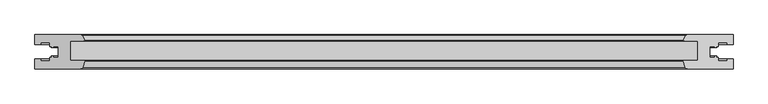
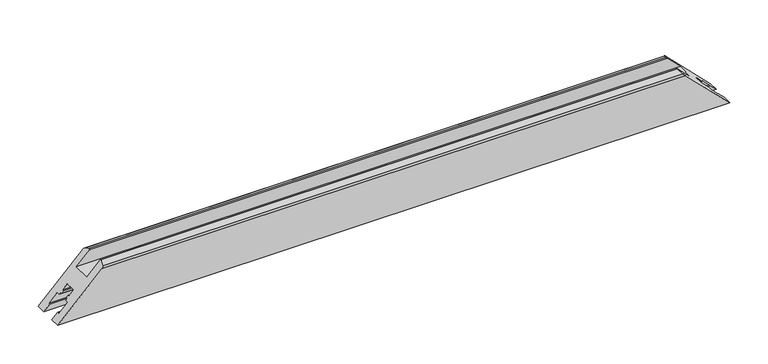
"""IFC4 building model written with IfcOpenShell, lengths in millimetres: proxy geometry, Weiku - Montante - Folha de correr 02.2.01.020 : Weiku - Montante - Folha de correr 02.2.01.020."""

from ifc_helpers import new_model, si_unit, frame, origin, place, context, project, spatial, ellipse_curve, source, transform, mapped, element, save
from ifc_brep_helpers import plane_surface, cylinder_surface, advanced_brep


def generic_models_0e127dd4(model_context):
    return source(origin(), model_context, "Body", "AdvancedBrep", [
        advanced_brep(
        [(505.75, -50.0, 0.0), (439.2504942, -50.0, 66.4995058), (-439.2504942, -50.0, 66.4995058), (-505.75, -50.0, 0.0), (-505.75, -35.5, 0.0), (505.75, -35.5, 0.0), (-505.75, 0.0, 0.0), (-438.2379875, 0.0, 67.5120125), (438.2379875, 0.0, 67.5120125), (505.75, 0.0, 0.0), (-436.3527168, -47.7764571, 69.3972832), (-433.7677981, -38.1294095, 71.9822019), (-434.2507611, -37.5, 71.4992389), (-454.7507611, -37.5, 50.9992389), (-454.7507611, -9.5, 50.9992389), (-434.9641895, -9.5, 70.7858105), (-433.8020406, -7.617411, 71.9479594), (-437.3440268, -0.5518546, 68.4059732), (-505.75, -14.5, 0.0), (-497.15, -14.5, 8.6), (-497.15, -11.7, 8.6), (-483.95, -11.7, 21.8), (-483.95, -16.9, 21.8), (-481.6024152, -16.9, 24.1475848), (-481.7773926, -18.9, 23.9726074), (-478.95, -18.9, 26.8), (-478.95, -16.9, 26.8), (-471.75, -16.9, 34.0), (-471.75, -33.1, 34.0), (-478.95, -33.1, 26.8), (-478.95, -31.1, 26.8), (-481.7773926, -31.1, 23.9726074), (-481.6024152, -33.1, 24.1475848), (-483.95, -33.1, 21.8), (-483.95, -38.3, 21.8), (-497.15, -38.3, 8.6), (-497.15, -35.5, 8.6), (497.15, -35.5, 8.6), (497.15, -38.3, 8.6), (483.95, -38.3, 21.8), (483.95, -33.1, 21.8), (481.6024152, -33.1, 24.1475848), (481.7773926, -31.1, 23.9726074), (478.95, -31.1, 26.8), (478.95, -33.1, 26.8), (471.75, -33.1, 34.0), (471.75, -16.9, 34.0), (478.95, -16.9, 26.8), (478.95, -18.9, 26.8), (481.7773926, -18.9, 23.9726074), (481.6024152, -16.9, 24.1475848), (483.95, -16.9, 21.8), (483.95, -11.7, 21.8), (497.15, -11.7, 8.6), (497.15, -14.5, 8.6), (505.75, -14.5, 0.0), (437.3440268, -0.5518546, 68.4059732), (433.8020406, -7.617411, 71.9479594), (434.9641895, -9.5, 70.7858105), (454.7507611, -9.5, 50.9992389), (454.7507611, -37.5, 50.9992389), (434.2507611, -37.5, 71.4992389), (433.7677981, -38.1294095, 71.9822019), (436.3527168, -47.7764571, 69.3972832)],
        [
            (0, 1),
            (1, 2),
            (2, 3),
            (3, 0),
            (3, 4),
            (4, 5),
            (5, 0),
            (6, 7),
            (7, 8),
            (8, 9),
            (9, 6),
            (2, 10, ellipse_curve(frame((-439.2504942, -47.0, 66.4995058), z_axis=(-0.7071067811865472, 0.0, 0.7071067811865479), x_axis=(-0.7071067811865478, 0.0, -0.7071067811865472)), 4.2426407, 3.0)),
            (10, 11),
            (11, 12, ellipse_curve(frame((-434.2507611, -38.0, 71.4992389), z_axis=(-0.7071067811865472, 0.0, 0.7071067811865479), x_axis=(-0.7071067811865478, 0.0, -0.7071067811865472)), 0.7071068, 0.5)),
            (12, 13),
            (13, 14),
            (14, 15),
            (15, 16, ellipse_curve(frame((-434.9641895, -8.2, 70.7858105), z_axis=(-0.7071067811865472, 0.0, 0.7071067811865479), x_axis=(-0.7071067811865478, 0.0, -0.7071067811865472)), 1.8384776, 1.3)),
            (16, 17),
            (17, 7, ellipse_curve(frame((-438.2379875, -1.0, 67.5120125), z_axis=(-0.7071067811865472, 0.0, 0.7071067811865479), x_axis=(-0.7071067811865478, 0.0, -0.7071067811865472)), 1.4142136, 1.0)),
            (6, 18),
            (18, 19),
            (19, 20),
            (20, 21),
            (21, 22),
            (22, 23),
            (23, 24),
            (24, 25),
            (25, 26),
            (26, 27),
            (27, 28),
            (28, 29),
            (29, 30),
            (30, 31),
            (31, 32),
            (32, 33),
            (33, 34),
            (34, 35),
            (35, 36),
            (36, 4),
            (5, 37),
            (37, 38),
            (38, 39),
            (39, 40),
            (40, 41),
            (41, 42),
            (42, 43),
            (43, 44),
            (44, 45),
            (45, 46),
            (46, 47),
            (47, 48),
            (48, 49),
            (49, 50),
            (50, 51),
            (51, 52),
            (52, 53),
            (53, 54),
            (54, 55),
            (55, 9),
            (8, 56, ellipse_curve(frame((438.2379875, -1.0, 67.5120125), z_axis=(0.7071067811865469, 0.0, 0.7071067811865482), x_axis=(-0.707106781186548, 0.0, 0.7071067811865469)), 1.4142136, 1.0)),
            (56, 57),
            (57, 58, ellipse_curve(frame((434.9641895, -8.2, 70.7858105), z_axis=(0.7071067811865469, 0.0, 0.7071067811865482), x_axis=(-0.707106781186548, 0.0, 0.7071067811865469)), 1.8384776, 1.3)),
            (58, 59),
            (59, 60),
            (60, 61),
            (61, 62, ellipse_curve(frame((434.2507611, -38.0, 71.4992389), z_axis=(0.7071067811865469, 0.0, 0.7071067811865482), x_axis=(-0.707106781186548, 0.0, 0.7071067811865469)), 0.7071068, 0.5)),
            (62, 63),
            (63, 1, ellipse_curve(frame((439.2504942, -47.0, 66.4995058), z_axis=(0.7071067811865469, 0.0, 0.7071067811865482), x_axis=(-0.707106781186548, 0.0, 0.7071067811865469)), 4.2426407, 3.0)),
            (17, 56),
            (16, 57),
            (15, 58),
            (14, 59),
            (13, 60),
            (12, 61),
            (11, 62),
            (10, 63),
            (36, 37),
            (35, 38),
            (34, 39),
            (33, 40),
            (32, 41),
            (31, 42),
            (30, 43),
            (29, 44),
            (28, 45),
            (27, 46),
            (26, 47),
            (25, 48),
            (24, 49),
            (23, 50),
            (22, 51),
            (21, 52),
            (20, 53),
            (19, 54),
            (18, 55),
        ],
        [
            plane_surface(frame((-505.75, -50.0, 66.4995058), z_axis=(0.0, -1.0, 0.0), x_axis=(1.0, 0.0, 0.0))),
            plane_surface(frame((-505.75, -50.0, 0.0), z_axis=(0.0, 0.0, -1.0), x_axis=(1.0, 0.0, 0.0))),
            plane_surface(frame((-505.75, 0.0, 0.0), z_axis=(0.0, 1.0, 0.0), x_axis=(1.0, 0.0, 0.0))),
            plane_surface(frame((-534.0342712, 0.0, -28.2842712), z_axis=(-0.7071067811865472, 0.0, 0.7071067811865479), x_axis=(0.0, -1.0, 0.0))),
            plane_surface(frame((425.75, 0.0, 80.0), z_axis=(0.7071067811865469, 0.0, 0.7071067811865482), x_axis=(0.0, -1.0, 0.0))),
            cylinder_surface(frame((-505.75, -1.0, 67.5120125), z_axis=(-1.0, 0.0, 0.0), x_axis=(0.0, -1.0, 0.0)), 1.0),
            plane_surface(frame((-505.75, -0.5518546, 68.4059732), z_axis=(0.0, 0.4481453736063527, 0.8939606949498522), x_axis=(1.0, 0.0, 0.0))),
            cylinder_surface(frame((-505.75, -8.2, 70.7858105), z_axis=(-1.0, 0.0, 0.0), x_axis=(0.0, -1.0, 0.0)), 1.3),
            plane_surface(frame((-505.75, -9.5, 70.7858105), z_axis=(0.0, -1.0, 0.0), x_axis=(1.0, 0.0, 0.0))),
            plane_surface(frame((-505.75, -9.5, 50.9992389), z_axis=(0.0, 0.0, 1.0), x_axis=(1.0, 0.0, 0.0))),
            plane_surface(frame((-505.75, -37.5, 50.9992389), z_axis=(0.0, 1.0, 0.0), x_axis=(1.0, 0.0, 0.0))),
            cylinder_surface(frame((-505.75, -38.0, 71.4992389), z_axis=(-1.0, 0.0, 0.0), x_axis=(0.0, -1.0, 0.0)), 0.5),
            plane_surface(frame((-505.75, -38.1294095, 71.9822019), z_axis=(0.0, -0.2588190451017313, 0.9659258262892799), x_axis=(1.0, 0.0, 0.0))),
            cylinder_surface(frame((-505.75, -47.0, 66.4995058), z_axis=(-1.0, 0.0, 0.0), x_axis=(0.0, -1.0, 0.0)), 3.0),
            plane_surface(frame((-505.75, -35.5, 0.0), z_axis=(0.0, 1.0, 0.0), x_axis=(1.0, 0.0, 0.0))),
            plane_surface(frame((-505.75, -35.5, 8.6), z_axis=(0.0, 0.0, 1.0), x_axis=(1.0, 0.0, 0.0))),
            plane_surface(frame((-505.75, -38.3, 8.6), z_axis=(0.0, 1.0, 0.0), x_axis=(1.0, 0.0, 0.0))),
            plane_surface(frame((-505.75, -38.3, 21.8), z_axis=(0.0, 0.0, -1.0), x_axis=(1.0, 0.0, 0.0))),
            plane_surface(frame((-505.75, -33.1, 21.8), z_axis=(0.0, 1.0, 0.0), x_axis=(1.0, 0.0, 0.0))),
            plane_surface(frame((-505.75, -33.1, 24.1475848), z_axis=(0.0, -0.08715574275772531, -0.9961946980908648), x_axis=(1.0, 0.0, 0.0))),
            plane_surface(frame((-505.75, -31.1, 23.9726074), z_axis=(0.0, 1.0, 0.0), x_axis=(1.0, 0.0, 0.0))),
            plane_surface(frame((-505.75, -31.1, 26.8), z_axis=(0.0, 0.0, 1.0), x_axis=(1.0, 0.0, 0.0))),
            plane_surface(frame((-505.75, -33.1, 26.8), z_axis=(0.0, 1.0, 0.0), x_axis=(1.0, 0.0, 0.0))),
            plane_surface(frame((-505.75, -33.1, 34.0), z_axis=(0.0, 0.0, -1.0), x_axis=(1.0, 0.0, 0.0))),
            plane_surface(frame((-505.75, -16.9, 34.0), z_axis=(0.0, -1.0, 0.0), x_axis=(1.0, 0.0, 0.0))),
            plane_surface(frame((-505.75, -16.9, 26.8), z_axis=(0.0, 0.0, 1.0), x_axis=(1.0, 0.0, 0.0))),
            plane_surface(frame((-505.75, -18.9, 26.8), z_axis=(0.0, -1.0, 0.0), x_axis=(1.0, 0.0, 0.0))),
            plane_surface(frame((-505.75, -18.9, 23.9726074), z_axis=(0.0, 0.08715574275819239, -0.9961946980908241), x_axis=(1.0, 0.0, 0.0))),
            plane_surface(frame((-505.75, -16.9, 24.1475848), z_axis=(0.0, -1.0, 0.0), x_axis=(1.0, 0.0, 0.0))),
            plane_surface(frame((-505.75, -16.9, 21.8), z_axis=(0.0, 0.0, -1.0), x_axis=(1.0, 0.0, 0.0))),
            plane_surface(frame((-505.75, -11.7, 21.8), z_axis=(0.0, -1.0, 0.0), x_axis=(1.0, 0.0, 0.0))),
            plane_surface(frame((-505.75, -11.7, 8.6), z_axis=(0.0, 0.0, 1.0), x_axis=(1.0, 0.0, 0.0))),
            plane_surface(frame((-505.75, -14.5, 8.6), z_axis=(0.0, -1.0, 0.0), x_axis=(1.0, 0.0, 0.0))),
            plane_surface(frame((-505.75, -14.5, 0.0), z_axis=(0.0, 0.0, -1.0), x_axis=(1.0, 0.0, 0.0))),
        ],
        [
            (0, [[1, 2, 3, 4]]),
            (1, [[5, 6, 7, -4]]),
            (2, [[8, 9, 10, 11]]),
            (3, [[12, 13, 14, 15, 16, 17, 18, 19, 20, -8, 21, 22, 23, 24, 25, 26, 27, 28, 29, 30, 31, 32, 33, 34, 35, 36, 37, 38, 39, 40, -5, -3]]),
            (4, [[-7, 41, 42, 43, 44, 45, 46, 47, 48, 49, 50, 51, 52, 53, 54, 55, 56, 57, 58, 59, 60, -10, 61, 62, 63, 64, 65, 66, 67, 68, 69, -1]]),
            (5, [[70, -61, -9, -20]]),
            (6, [[71, -62, -70, -19]]),
            (7, [[72, -63, -71, -18]]),
            (8, [[73, -64, -72, -17]]),
            (9, [[74, -65, -73, -16]]),
            (10, [[75, -66, -74, -15]]),
            (11, [[76, -67, -75, -14]]),
            (12, [[77, -68, -76, -13]]),
            (13, [[-2, -69, -77, -12]]),
            (14, [[-40, 78, -41, -6]]),
            (15, [[79, -42, -78, -39]]),
            (16, [[80, -43, -79, -38]]),
            (17, [[81, -44, -80, -37]]),
            (18, [[82, -45, -81, -36]]),
            (19, [[83, -46, -82, -35]]),
            (20, [[84, -47, -83, -34]]),
            (21, [[85, -48, -84, -33]]),
            (22, [[86, -49, -85, -32]]),
            (23, [[87, -50, -86, -31]]),
            (24, [[88, -51, -87, -30]]),
            (25, [[89, -52, -88, -29]]),
            (26, [[90, -53, -89, -28]]),
            (27, [[91, -54, -90, -27]]),
            (28, [[92, -55, -91, -26]]),
            (29, [[93, -56, -92, -25]]),
            (30, [[94, -57, -93, -24]]),
            (31, [[95, -58, -94, -23]]),
            (32, [[-59, -95, -22, 96]]),
            (33, [[-60, -96, -21, -11]]),
        ],
    ),
    ])


if __name__ == "__main__":
    model = new_model("IFC4")
    model_context = context("Model", 3, world=origin())
    ifc_project = project(units=[si_unit("LENGTHUNIT", "METRE", prefix="MILLI")], contexts=[model_context])
    site = spatial("IfcSite", under=ifc_project)
    building = spatial("IfcBuilding", under=site)
    placement = place(None, origin())
    generic_models_shape = generic_models_0e127dd4(model_context)
    element("IfcBuildingElementProxy", 1, Name="Weiku - Montante - Folha de correr 02.2.01.020 : Weiku - Montante - Folha de correr 02.2.01.020", ObjectType="Weiku - Montante - Folha de correr 02.2.01.020 : Weiku - Montante - Folha de correr 02.2.01.020", at=placement, inside=building, context=model_context, shape_type="MappedRepresentation", body=[
        mapped(generic_models_shape, transform((0.0, 0.0, 0.0), x_axis=(1.0, 0.0, 0.0), y_axis=(0.0, 1.0, 0.0), z_axis=(0.0, 0.0, 1.0))),
    ])
    save(model, "model.ifc")
